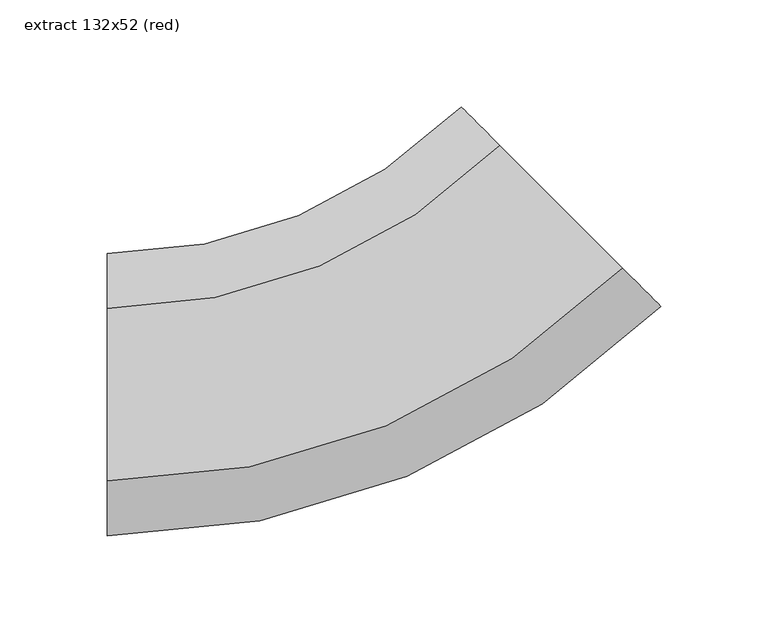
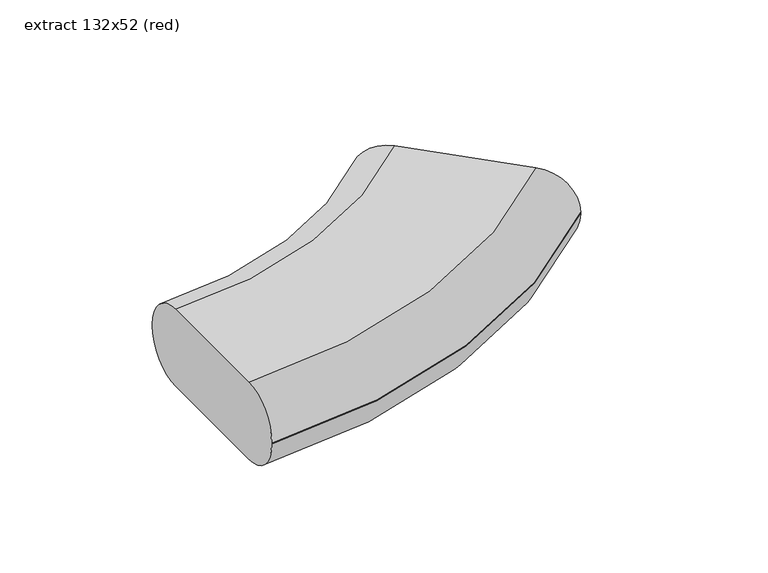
"""IFC4 building model written with IfcOpenShell, lengths in millimetres: duct segment geometry, NLRS_57_DUF_UN_Hybalans flexbend oval_M&G : extract 132x52 (red)."""

from ifc_helpers import new_model, si_unit, point, frame, origin, place, context, project, spatial, polyline, circle_curve, ellipse_curve, trimmed, source, transform, mapped, element, save
from ifc_brep_helpers import plane_surface, cylinder_surface, revolved_surface, advanced_brep


def extract_132x52_red_960e4565(model_context):
    return source(origin(), model_context, "Body", "AdvancedBrep", [
        advanced_brep(
        [(-124.2640687, -40.4, 26.0), (-124.2640687, 40.4, 26.0), (-124.2640687, 66.0, 0.4), (-124.2640687, 66.0, -0.4), (-124.2640687, 40.4, -26.0), (-124.2640687, -40.4, -26.0), (-124.2640687, -66.0, -0.4), (-124.2640687, -66.0, 0.4), (116.4350796, 59.3008517, 26.0), (134.5370132, 41.1989181, 0.4), (134.5370132, 41.1989181, -0.4), (116.4350796, 59.3008517, -26.0), (59.3008517, 116.4350796, -26.0), (41.1989181, 134.5370132, -0.4), (41.1989181, 134.5370132, 0.4), (59.3008517, 116.4350796, 26.0)],
        [
            (0, 1),
            (1, 2, circle_curve(frame((-124.2640687, 40.4, 0.4), z_axis=(-1.0, 0.0, 0.0), x_axis=(0.0, 1.0, 0.0)), 25.6)),
            (2, 3),
            (3, 4, circle_curve(frame((-124.2640687, 40.4, -0.4), z_axis=(-1.0, 0.0, 0.0), x_axis=(0.0, 1.0, 0.0)), 25.6)),
            (4, 5),
            (5, 6, circle_curve(frame((-124.2640687, -40.4, -0.4), z_axis=(-1.0, 0.0, 0.0), x_axis=(0.0, 1.0, 0.0)), 25.6)),
            (6, 7),
            (7, 0, circle_curve(frame((-124.2640687, -40.4, 0.4), z_axis=(-1.0, 0.0, 0.0), x_axis=(0.0, 1.0, 0.0)), 25.6)),
            (8, 9, circle_curve(frame((116.4350796, 59.3008517, 0.4), z_axis=(0.7071067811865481, 0.7071067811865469, 0.0), x_axis=(-0.7071067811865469, 0.7071067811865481, 0.0)), 25.6)),
            (9, 10),
            (10, 11, circle_curve(frame((116.4350796, 59.3008517, -0.4), z_axis=(0.7071067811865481, 0.7071067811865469, 0.0), x_axis=(-0.7071067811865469, 0.7071067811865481, 0.0)), 25.6)),
            (11, 12),
            (12, 13, circle_curve(frame((59.3008517, 116.4350796, -0.4), z_axis=(0.7071067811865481, 0.7071067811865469, 0.0), x_axis=(-0.7071067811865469, 0.7071067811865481, 0.0)), 25.6)),
            (13, 14),
            (14, 15, circle_curve(frame((59.3008517, 116.4350796, 0.4), z_axis=(0.7071067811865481, 0.7071067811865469, 0.0), x_axis=(-0.7071067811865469, 0.7071067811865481, 0.0)), 25.6)),
            (15, 8),
            (15, 1, circle_curve(frame((-124.2640687, 300.0, 26.0), z_axis=(0.0, 0.0, -1.0), x_axis=(0.0, -1.0, 0.0)), 259.6)),
            (0, 8, circle_curve(frame((-124.2640687, 300.0, 26.0), z_axis=(0.0, 0.0, 1.0), x_axis=(0.0, -1.0, 0.0)), 340.4)),
            (14, 2, circle_curve(frame((-124.2640687, 300.0, 0.4), z_axis=(0.0, 0.0, -1.0), x_axis=(0.0, -1.0, 0.0)), 234.0)),
            (13, 3, circle_curve(frame((-124.2640687, 300.0, -0.4), z_axis=(0.0, 0.0, -1.0), x_axis=(0.0, -1.0, 0.0)), 234.0)),
            (12, 4, circle_curve(frame((-124.2640687, 300.0, -26.0), z_axis=(0.0, 0.0, -1.0), x_axis=(0.0, -1.0, 0.0)), 259.6)),
            (11, 5, circle_curve(frame((-124.2640687, 300.0, -26.0), z_axis=(0.0, 0.0, -1.0), x_axis=(0.0, -1.0, 0.0)), 340.4)),
            (10, 6, circle_curve(frame((-124.2640687, 300.0, -0.4), z_axis=(0.0, 0.0, -1.0), x_axis=(0.0, -1.0, 0.0)), 366.0)),
            (9, 7, circle_curve(frame((-124.2640687, 300.0, 0.4), z_axis=(0.0, 0.0, -1.0), x_axis=(0.0, -1.0, 0.0)), 366.0)),
        ],
        [
            plane_surface(frame((-124.2640687, 0.0, 0.0), z_axis=(-1.0, 0.0, 0.0), x_axis=(0.0, 0.0, 1.0))),
            plane_surface(frame((87.8679656, 87.8679656, 0.0), z_axis=(0.7071067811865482, 0.707106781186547, 0.0), x_axis=(0.0, 0.0, 1.0))),
            plane_surface(frame((-124.2640687, 300.0, 26.0), z_axis=(0.0, 0.0, 1.0), x_axis=(0.0, -1.0, 0.0))),
            revolved_surface(trimmed(ellipse_curve(frame((-124.2640687, 40.4, 0.4), z_axis=(-1.0, 0.0, 0.0), x_axis=(0.0, 1.0, 0.0)), 25.6, 25.6), [point((-124.2640687, 40.4, 26.0))], [point((-124.2640687, 66.0, 0.4))], True, "CARTESIAN"), (-124.2640687, 300.0, 0.0), (0.0, 0.0, 1.0)),
            revolved_surface(polyline([(-124.2640687, 66.0, 0.4), (-124.2640687, 66.0, -0.4)]), (-124.2640687, 300.0, 0.0), (0.0, 0.0, 1.0)),
            revolved_surface(trimmed(ellipse_curve(frame((-124.2640687, 40.4, -0.4), z_axis=(-1.0, 0.0, 0.0), x_axis=(0.0, 1.0, 0.0)), 25.6, 25.6), [point((-124.2640687, 66.0, -0.4))], [point((-124.2640687, 40.4, -26.0))], True, "CARTESIAN"), (-124.2640687, 300.0, 0.0), (0.0, 0.0, 1.0)),
            plane_surface(frame((-124.2640687, 300.0, -26.0), z_axis=(0.0, 0.0, -1.0), x_axis=(0.0, -1.0, 0.0))),
            revolved_surface(trimmed(ellipse_curve(frame((-124.2640687, -40.4, -0.4), z_axis=(-1.0, 0.0, 0.0), x_axis=(0.0, 1.0, 0.0)), 25.6, 25.6), [point((-124.2640687, -40.4, -26.0))], [point((-124.2640687, -66.0, -0.4))], True, "CARTESIAN"), (-124.2640687, 300.0, 0.0), (0.0, 0.0, 1.0)),
            cylinder_surface(frame((-124.2640687, 300.0, 0.0), z_axis=(0.0, 0.0, 1.0), x_axis=(0.0, -1.0, 0.0)), 366.0),
            revolved_surface(trimmed(ellipse_curve(frame((-124.2640687, -40.4, 0.4), z_axis=(-1.0, 0.0, 0.0), x_axis=(0.0, 1.0, 0.0)), 25.6, 25.6), [point((-124.2640687, -66.0, 0.4))], [point((-124.2640687, -40.4, 26.0))], True, "CARTESIAN"), (-124.2640687, 300.0, 0.0), (0.0, 0.0, 1.0)),
        ],
        [
            (0, [[1, 2, 3, 4, 5, 6, 7, 8]]),
            (1, [[9, 10, 11, 12, 13, 14, 15, 16]]),
            (2, [[17, -1, 18, -16]]),
            (3, [[19, -2, -17, -15]]),
            (4, [[20, -3, -19, -14]]),
            (5, [[21, -4, -20, -13]]),
            (6, [[22, -5, -21, -12]]),
            (7, [[23, -6, -22, -11]]),
            (8, [[24, -7, -23, -10]]),
            (9, [[-18, -8, -24, -9]]),
        ],
    ),
    ])


if __name__ == "__main__":
    model = new_model("IFC4")
    model_context = context("Model", 3, world=origin())
    ifc_project = project(units=[si_unit("LENGTHUNIT", "METRE", prefix="MILLI")], contexts=[model_context])
    site = spatial("IfcSite", under=ifc_project)
    building = spatial("IfcBuilding", under=site)
    placement = place(None, origin())
    extract_132x52_red_shape = extract_132x52_red_960e4565(model_context)
    element("IfcDuctSegment", 1, ObjectType="NLRS_57_DUF_UN_Hybalans flexbend oval_M&G : extract 132x52 (red)", at=placement, inside=building, context=model_context, shape_type="MappedRepresentation", body=[
        mapped(extract_132x52_red_shape, transform((0.0, 0.0, 0.0), x_axis=(1.0, 0.0, 0.0), y_axis=(0.0, 1.0, 0.0), z_axis=(0.0, 0.0, 1.0))),
    ])
    save(model, "model.ifc")
